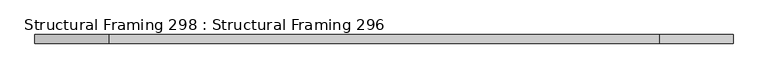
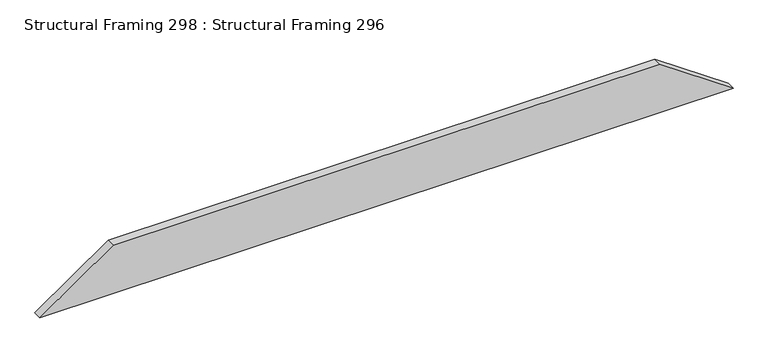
"""IFC4 building model written with IfcOpenShell, lengths in millimetres: beam geometry, Structural Framing 298 : Structural Framing 296."""

from ifc_helpers import new_model, si_unit, frame, origin, place, context, project, spatial, polyline, outline, extrude, source, transform, mapped, element, save


def structural_framing_298_structural_framing_296_1c13a3da(model_context):
    return source(origin(), model_context, "Body", "SweptSolid", [
        extrude(outline(polyline([(2089.9566477, 2220.8259056), (2239.9566477, 2006.6037045), (2239.9566477, 406.95411), (2089.9566477, 192.731909), (2089.9566477, 2220.8259056)])), frame((0.0, 2325.5508021, 0.0), z_axis=(0.0, 1.0, 0.0), x_axis=(0.0, 0.0, 1.0)), (0.0, 0.0, 1.0), 25.0),
    ])


if __name__ == "__main__":
    model = new_model("IFC4")
    model_context = context("Model", 3, world=origin())
    ifc_project = project(units=[si_unit("LENGTHUNIT", "METRE", prefix="MILLI")], contexts=[model_context])
    site = spatial("IfcSite", under=ifc_project)
    building = spatial("IfcBuilding", under=site)
    placement = place(None, origin())
    structural_framing_298_structural_framing_296_shape = structural_framing_298_structural_framing_296_1c13a3da(model_context)
    element("IfcBeam", 1, ObjectType="Structural Framing 298 : Structural Framing 296", at=placement, inside=building, context=model_context, shape_type="MappedRepresentation", body=[
        mapped(structural_framing_298_structural_framing_296_shape, transform((0.0, 0.0, 0.0), x_axis=(1.0, 0.0, 0.0), y_axis=(0.0, 1.0, 0.0), z_axis=(0.0, 0.0, 1.0))),
    ])
    save(model, "model.ifc")
